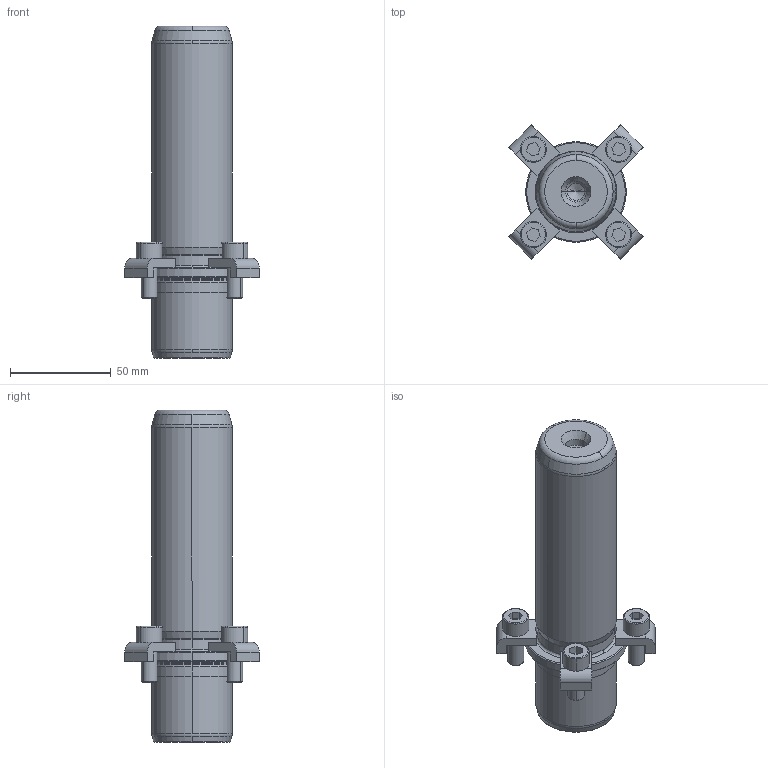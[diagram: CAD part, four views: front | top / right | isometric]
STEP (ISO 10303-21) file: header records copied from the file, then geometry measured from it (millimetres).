
FILE_DESCRIPTION((''),'2;1');
FILE_NAME('P21_040_125.stp','2008-12-23T11:24:30',(''),(''),'Mechanical Desktop 2009','Mechanical Desktop 2009',', , ');
FILE_SCHEMA(('CONFIG_CONTROL_DESIGN'));
Length unit declared in the file: millimetre
Products named in the file (2): Product; blmdl1
Assembly tree (1 placements, depth 2):
  Product
    blmdl1
Bounding box: 66.82 x 66.82 x 165 mm (x, y, z)
Volume: 217477.6 mm3; surface area: 35001.7 mm2
Topology: 9 solids, 9 shells, 203 faces, 501 edges, 325 vertices
Faces by surface type: plane 81, cylinder 56, cone 34, torus 16, bspline 16
Entity records: 6819 total; most frequent: CARTESIAN_POINT 1731, DIRECTION 1126, ORIENTED_EDGE 994, EDGE_CURVE 497, AXIS2_PLACEMENT_3D 440, VERTEX_POINT 325, CIRCLE 251, VECTOR 246
